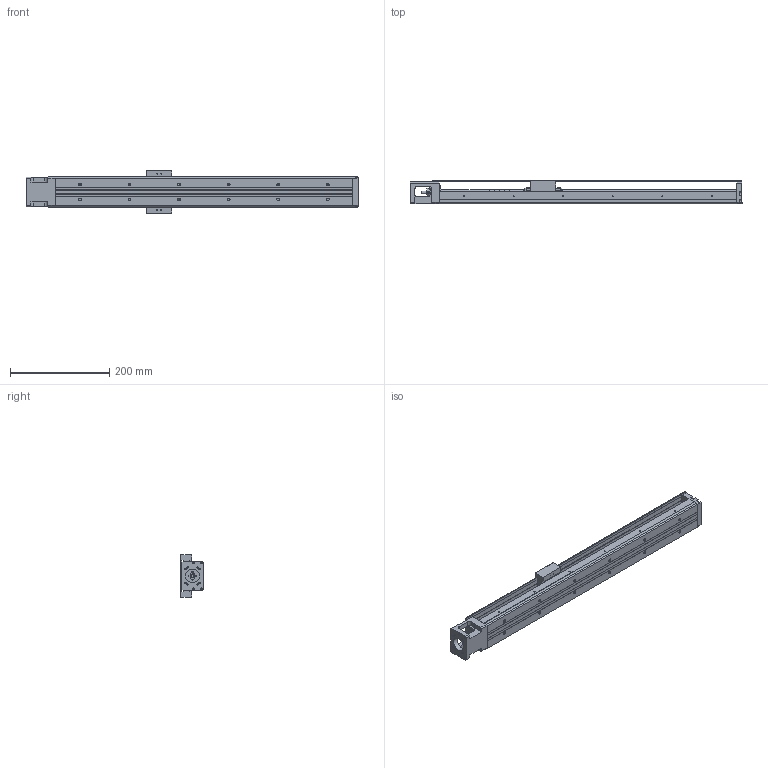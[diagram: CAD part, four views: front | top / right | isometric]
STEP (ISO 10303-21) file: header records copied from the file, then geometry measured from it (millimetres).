
FILE_DESCRIPTION(/* description */ (''),/* implementation_level */ '2;1');
FILE_NAME(/* name */ 'KP33N-600C.stp',/* time_stamp */ '2019-02-25T15:09:40+08:00',/* author */ (''),/* organization */ (''),/* preprocessor_version */ 'ST-DEVELOPER v11',/* originating_system */ 'SIEMENS UGS NX 6.0',/* authorisation */ '');
FILE_SCHEMA (('CONFIG_CONTROL_DESIGN'));
Length unit declared in the file: millimetre
Products named in the file (1): darrFF5Egxc4
Bounding box: 670 x 47.95 x 86 mm (x, y, z)
Volume: 828356.6 mm3; surface area: 296316 mm2
Topology: 7 solids, 16 shells, 771 faces, 1944 edges, 1287 vertices
Faces by surface type: plane 454, cylinder 230, bspline 31, cone 24, extrusion 21, torus 9, revolution 2
Full cylindrical faces by diameter (mm): 1.6 x7, 1.65 x4, 2.15 x6, 2.42 x4, 2.45 x8, 2.5 x22, 3 x3, 3.2 x4, 3.3 x4, 3.4 x3, 3.5 x10, 3.969 x1, 4 x6, 4.001 x1, 4.135 x4, 4.2 x4, 5.5 x12, 6 x5, 7.6 x1, 8 x5, 9.5 x12, 10.72 x3, 11.8 x2, 12 x6, 12.8 x1, 13 x2, 14 x1, 17.38 x3, 21.5 x1, 22 x2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
Entity records: 34353 total; most frequent: CARTESIAN_POINT 16857, DIRECTION 3502, ORIENTED_EDGE 3346, EDGE_CURVE 1673, AXIS2_PLACEMENT_3D 1254, VERTEX_POINT 1199, EDGE_LOOP 1114, VECTOR 992
